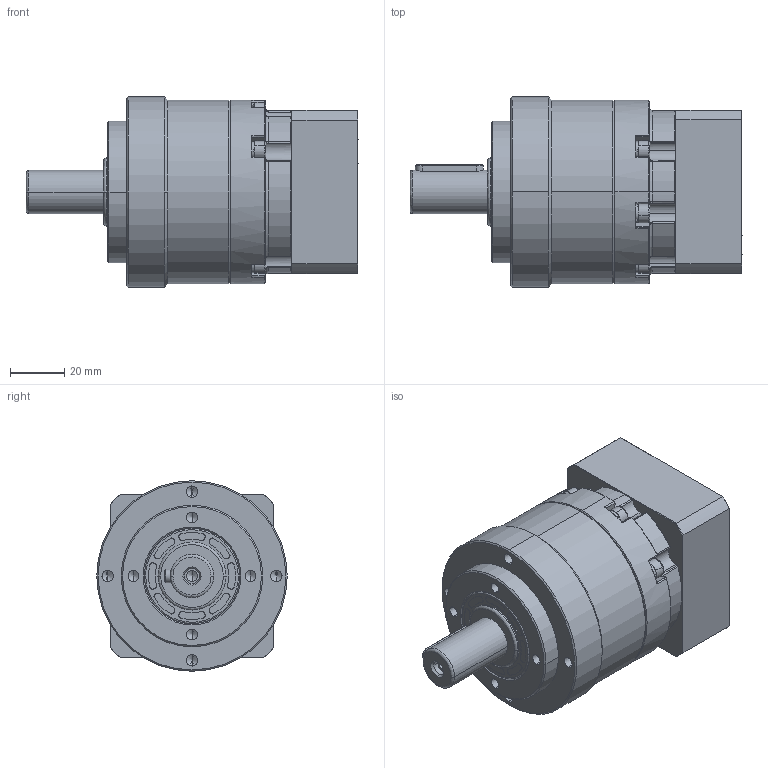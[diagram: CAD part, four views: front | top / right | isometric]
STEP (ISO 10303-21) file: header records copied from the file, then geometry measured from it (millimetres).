
FILE_DESCRIPTION (( 'STEP AP214' ), '1' );
FILE_NAME ('VRL-070-L1-S2-P1 14-50-70-M5.STEP', '2023-07-07T02:01:32', ( '微软用户' ), ( '微软中国' ), 'SwSTEP 2.0', 'SolidWorks 2018', '' );
FILE_SCHEMA (( 'AUTOMOTIVE_DESIGN' ));
Length unit declared in the file: millimetre
Products named in the file (10): hexagon socket head cap screws gb_GB_FASTENER_SCREWS_HSHCS M4X16-N; 一级齿圈加出轴 VRL070外形图; hexagon socket head cap screws gb_GB_FASTENER_SCREWS_HSHCS M4X20-N; 萇儂楊擘 PAB060-D50-M5-70F60H24.5; spring lock washers--normal type gb_GB_FASTENER_WASHER_SW 4; 一级整体太阳轮夹套外形图 PAB060D14; hex socket set screws with flat point gb_GB_FASTENER_SCREWS_HSFP M10X10-N; VRL-070-L1-S2-P1 14-50-70-M5; 笢潔楊擘 VRB060俋倛芞; hexagon socket head cap screws gb_GB_FASTENER_SCREWS_HSHCS M5X16-N
Assembly tree (30 placements, depth 2):
  VRL-070-L1-S2-P1 14-50-70-M5
    一级齿圈加出轴 VRL070外形图
    笢潔楊擘 VRB060俋倛芞
    萇儂楊擘 PAB060-D50-M5-70F60H24.5
    一级整体太阳轮夹套外形图 PAB060D14
    hexagon socket head cap screws gb_GB_FASTENER_SCREWS_HSHCS M5X16-N
    hex socket set screws with flat point gb_GB_FASTENER_SCREWS_HSFP M10X10-N
    hexagon socket head cap screws gb_GB_FASTENER_SCREWS_HSHCS M4X20-N  x6
    spring lock washers--normal type gb_GB_FASTENER_WASHER_SW 4  x12
    hexagon socket head cap screws gb_GB_FASTENER_SCREWS_HSHCS M4X16-N  x6
Bounding box: 122 x 70 x 70 mm (x, y, z)
Volume: 257136.4 mm3; surface area: 66483.2 mm2
Topology: 32 solids, 32 shells, 1046 faces, 2576 edges, 1595 vertices
Faces by surface type: cylinder 392, plane 387, cone 201, bspline 66
Entity records: 22516 total; most frequent: CARTESIAN_POINT 5464, DIRECTION 3646, ORIENTED_EDGE 3392, EDGE_CURVE 1696, AXIS2_PLACEMENT_3D 1454, VERTEX_POINT 1079, CIRCLE 781, EDGE_LOOP 769
